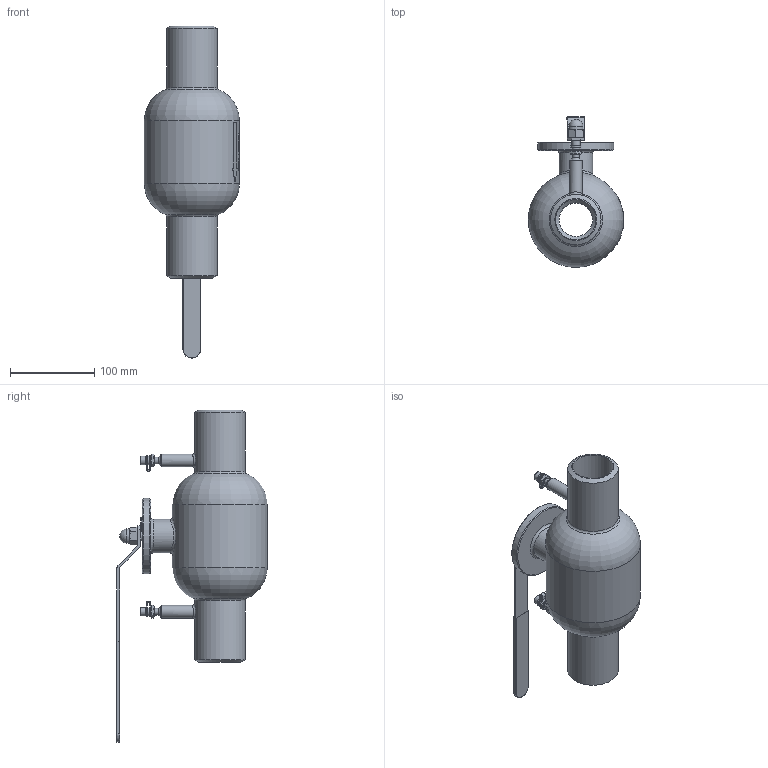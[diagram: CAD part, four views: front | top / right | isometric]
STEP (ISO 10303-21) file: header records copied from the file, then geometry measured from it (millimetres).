
FILE_DESCRIPTION(('STEP AP214'), '1');
FILE_NAME('BVR3232P-SP-W-H Êðàí øàðîâîé ðåãóëèðóþùèé DN.ru Äó50 Py40', '', ('UNSPECIFIED'), ('UNSPECIFIED'), 'C3D Converter', 'C3D Toolkit', '');
FILE_SCHEMA(('AUTOMOTIVE_DESIGN { 1 0 10303 214 3 1 1}'));
Length unit declared in the file: millimetre
Products named in the file (1): BVR3232P-SP-W-H
Bounding box: 113.43 x 179.5 x 395 mm (x, y, z)
Volume: 1386463.8 mm3; surface area: 166294.6 mm2
Topology: 1 solids, 1 shells, 844 faces, 2174 edges, 1441 vertices
Faces by surface type: plane 417, bspline 185, extrusion 127, cylinder 87, cone 18, torus 9, sphere 1
Full cylindrical faces by diameter (mm): 8 x10, 10 x4, 12 x1, 15 x2, 17 x1, 40 x2, 48 x2, 60 x2, 90 x1, 113 x1
Entity records: 88529 total; most frequent: CARTESIAN_POINT 68604, ORIENTED_EDGE 4238, DIRECTION 2769, EDGE_CURVE 2119, VERTEX_POINT 1439, VECTOR 1201, LINE 1074, EDGE_LOOP 1012
